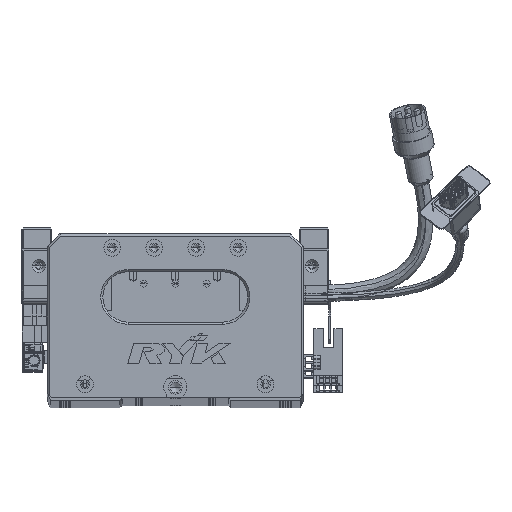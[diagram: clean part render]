
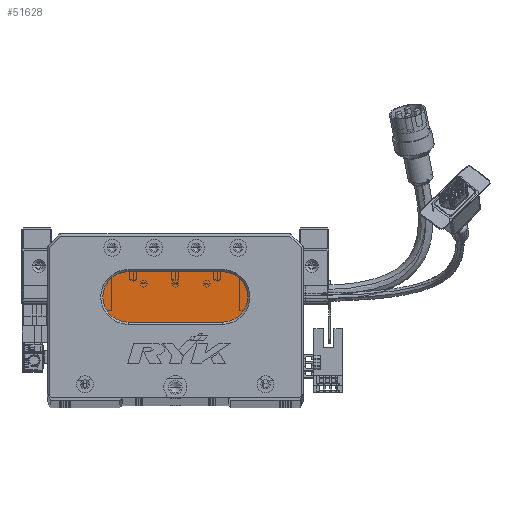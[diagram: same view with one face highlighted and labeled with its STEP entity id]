
A CAD part, top view. The second image highlights one B-rep face of the part: STEP entity #51628.
In plain terms, the highlighted planar face has unit normal (0, 0, 1) as drawn and (0, 0, -1) by its records, which use the part's own axes.
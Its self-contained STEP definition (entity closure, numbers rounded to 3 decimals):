
#2402 = DIRECTION ( 'NONE',  ( -1., 0., 0. ) ) ;
#3027 = ORIENTED_EDGE ( 'NONE', *, *, #16797, .T. ) ;
#5172 = VERTEX_POINT ( 'NONE', #78614 ) ;
#5241 = PLANE ( 'NONE',  #47924 ) ;
#6873 = EDGE_CURVE ( 'NONE', #96749, #75148, #65582, .T. ) ;
#8296 = EDGE_LOOP ( 'NONE', ( #3027, #72761, #49851, #108637, #84094 ) ) ;
#8629 = FACE_OUTER_BOUND ( 'NONE', #8296, .T. ) ;
#9195 = DIRECTION ( 'NONE',  ( 0., 0., -1. ) ) ;
#13351 = VECTOR ( 'NONE', #33082, 1000. ) ;
#16797 = EDGE_CURVE ( 'NONE', #62483, #5172, #82338, .T. ) ;
#17108 = AXIS2_PLACEMENT_3D ( 'NONE', #29703, #103913, #53403 ) ;
#29703 = CARTESIAN_POINT ( 'NONE',  ( 83.5, 48., 13. ) ) ;
#30573 = LINE ( 'NONE', #57899, #13351 ) ;
#33082 = DIRECTION ( 'NONE',  ( 1., 0., 0. ) ) ;
#33455 = VECTOR ( 'NONE', #34503, 1000. ) ;
#34503 = DIRECTION ( 'NONE',  ( -1., 0., 0. ) ) ;
#35595 = AXIS2_PLACEMENT_3D ( 'NONE', #70911, #87417, #2402 ) ;
#43621 = DIRECTION ( 'NONE',  ( -1., 0., 0. ) ) ;
#45999 = CARTESIAN_POINT ( 'NONE',  ( 26.5, 48., 13. ) ) ;
#47924 = AXIS2_PLACEMENT_3D ( 'NONE', #48916, #90603, #56728 ) ;
#48916 = CARTESIAN_POINT ( 'NONE',  ( 83.5, 48., 13. ) ) ;
#48951 = VERTEX_POINT ( 'NONE', #91133 ) ;
#49851 = ORIENTED_EDGE ( 'NONE', *, *, #6873, .T. ) ;
#51628 = ADVANCED_FACE ( 'NONE', ( #8629 ), #5241, .T. ) ;
#53403 = DIRECTION ( 'NONE',  ( -1., 0., 0. ) ) ;
#54611 = CARTESIAN_POINT ( 'NONE',  ( 38.5, 36., 13. ) ) ;
#56728 = DIRECTION ( 'NONE',  ( -1., 0., 0. ) ) ;
#57899 = CARTESIAN_POINT ( 'NONE',  ( 83.5, 60., 13. ) ) ;
#58115 = EDGE_CURVE ( 'NONE', #5172, #96749, #69200, .T. ) ;
#62483 = VERTEX_POINT ( 'NONE', #101493 ) ;
#65582 = CIRCLE ( 'NONE', #35595, 12. ) ;
#66972 = CIRCLE ( 'NONE', #96774, 12. ) ;
#69200 = LINE ( 'NONE', #85046, #33455 ) ;
#70911 = CARTESIAN_POINT ( 'NONE',  ( 38.5, 48., 13. ) ) ;
#72761 = ORIENTED_EDGE ( 'NONE', *, *, #58115, .T. ) ;
#75148 = VERTEX_POINT ( 'NONE', #45999 ) ;
#78614 = CARTESIAN_POINT ( 'NONE',  ( 83.5, 36., 13. ) ) ;
#82338 = CIRCLE ( 'NONE', #17108, 12. ) ;
#84032 = EDGE_CURVE ( 'NONE', #75148, #48951, #66972, .T. ) ;
#84094 = ORIENTED_EDGE ( 'NONE', *, *, #96915, .T. ) ;
#85046 = CARTESIAN_POINT ( 'NONE',  ( 83.5, 36., 13. ) ) ;
#87417 = DIRECTION ( 'NONE',  ( 0., 0., -1. ) ) ;
#90603 = DIRECTION ( 'NONE',  ( 0., 0., -1. ) ) ;
#91133 = CARTESIAN_POINT ( 'NONE',  ( 38.5, 60., 13. ) ) ;
#96749 = VERTEX_POINT ( 'NONE', #54611 ) ;
#96774 = AXIS2_PLACEMENT_3D ( 'NONE', #102303, #9195, #43621 ) ;
#96915 = EDGE_CURVE ( 'NONE', #48951, #62483, #30573, .T. ) ;
#101493 = CARTESIAN_POINT ( 'NONE',  ( 83.5, 60., 13. ) ) ;
#102303 = CARTESIAN_POINT ( 'NONE',  ( 38.5, 48., 13. ) ) ;
#103913 = DIRECTION ( 'NONE',  ( 0., 0., -1. ) ) ;
#108637 = ORIENTED_EDGE ( 'NONE', *, *, #84032, .T. ) ;
